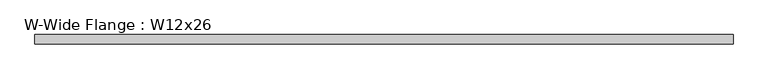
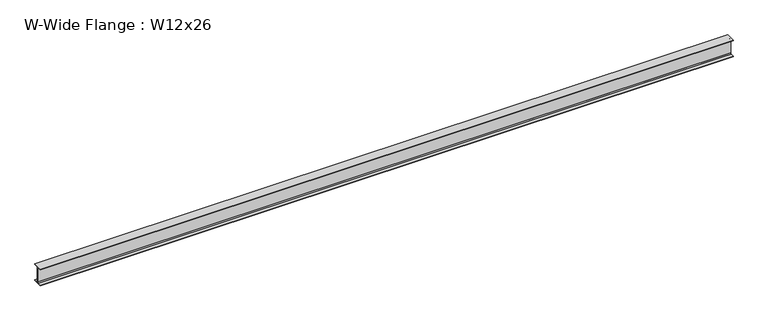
"""IFC4 building model written with IfcOpenShell, lengths in millimetres: beam geometry, W-Wide Flange : W12x26."""

from ifc_helpers import new_model, si_unit, point, frame, frame_2d, origin, place, context, project, spatial, polyline, circle_curve, trimmed, segment, composite_curve, outline, extrude, source, transform, mapped, element, save


def w_wide_flange_w12x26_1f94d798(model_context):
    return source(origin(), model_context, "Body", "SweptSolid", [
        extrude(outline(composite_curve([segment(polyline([(82.423, -145.288), (82.423, -154.94), (-82.423, -154.94), (-82.423, -145.288), (-20.2565, -145.288)]), True, "CONTINUOUS"), segment(trimmed(circle_curve(frame_2d((-20.2565, -127.9525)), 17.3355), [point((-20.2565, -145.288))], [point((-2.921, -127.9525))], True, "CARTESIAN"), True, "CONTINUOUS"), segment(polyline([(-2.921, -127.9525), (-2.921, 127.9525)]), True, "CONTINUOUS"), segment(trimmed(circle_curve(frame_2d((-20.2565, 127.9525)), 17.3355), [point((-2.921, 127.9525))], [point((-20.2565, 145.288))], True, "CARTESIAN"), True, "CONTINUOUS"), segment(polyline([(-20.2565, 145.288), (-82.423, 145.288), (-82.423, 154.94), (82.423, 154.94), (82.423, 145.288), (20.2565, 145.288)]), True, "CONTINUOUS"), segment(trimmed(circle_curve(frame_2d((20.2565, 127.9525)), 17.3355), [point((20.2565, 145.288))], [point((2.921, 127.9525))], True, "CARTESIAN"), True, "CONTINUOUS"), segment(polyline([(2.921, 127.9525), (2.921, -127.9525)]), True, "CONTINUOUS"), segment(trimmed(circle_curve(frame_2d((20.2565, -127.9525)), 17.3355), [point((2.921, -127.9525))], [point((20.2565, -145.288))], True, "CARTESIAN"), True, "CONTINUOUS"), segment(polyline([(20.2565, -145.288), (82.423, -145.288)]), True, "CONTINUOUS")], self_intersect=False)), frame((-6164.6415973, 0.0, 0.0), z_axis=(1.0, 0.0, 0.0), x_axis=(0.0, 1.0, 0.0)), (0.0, 0.0, 1.0), 12329.2831946),
    ])


if __name__ == "__main__":
    model = new_model("IFC4")
    model_context = context("Model", 3, world=origin())
    ifc_project = project(units=[si_unit("LENGTHUNIT", "METRE", prefix="MILLI")], contexts=[model_context])
    site = spatial("IfcSite", under=ifc_project)
    building = spatial("IfcBuilding", under=site)
    placement = place(None, origin())
    w_wide_flange_w12x26_shape = w_wide_flange_w12x26_1f94d798(model_context)
    element("IfcBeam", 1, ObjectType="W-Wide Flange : W12x26", at=placement, inside=building, context=model_context, shape_type="MappedRepresentation", body=[
        mapped(w_wide_flange_w12x26_shape, transform((0.0, 0.0, 0.0), x_axis=(1.0, 0.0, 0.0), y_axis=(0.0, 1.0, 0.0), z_axis=(0.0, 0.0, 1.0))),
    ])
    save(model, "model.ifc")
